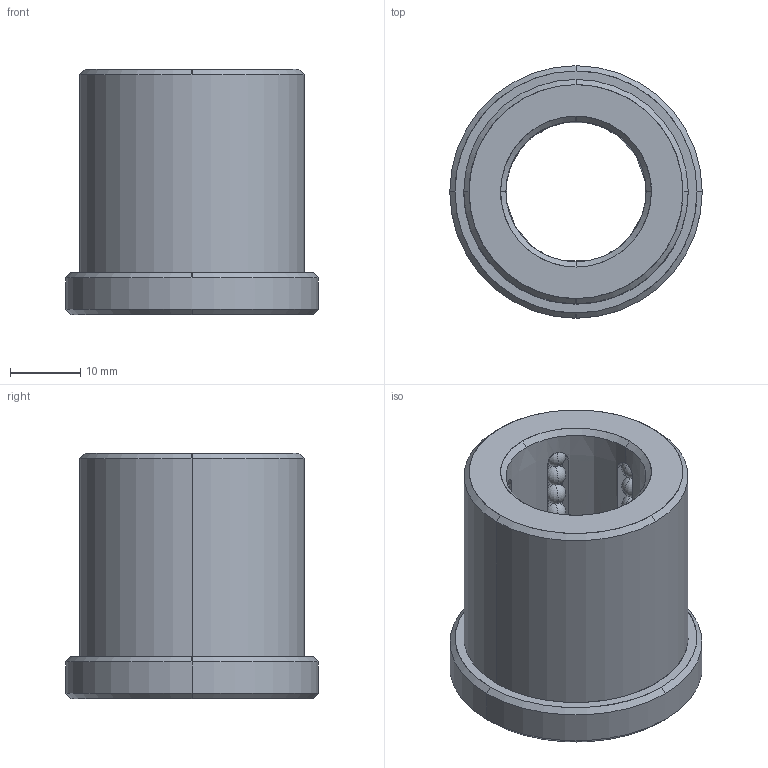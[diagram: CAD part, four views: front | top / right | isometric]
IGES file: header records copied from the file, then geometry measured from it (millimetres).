
Start section: START RECORD GO HERE.
Global section: file name: B8012035.igs; native system: DASSAULT SYSTEMES CATIA V5 R20 - www.3ds.com; preprocessor: CATIA Version 5 Release 20 ; author: Utente; organization: NB04-ASUS; date: 20200419.144116; units: millimetre
Bounding box: 36 x 36 x 35 mm (x, y, z)
Surface area: 9641.7 mm2 (no closed solid volume)
Topology: 0 solids, 0 shells, 271 faces, 1136 edges, 704 vertices
Faces by surface type: revolution 250, plane 21
